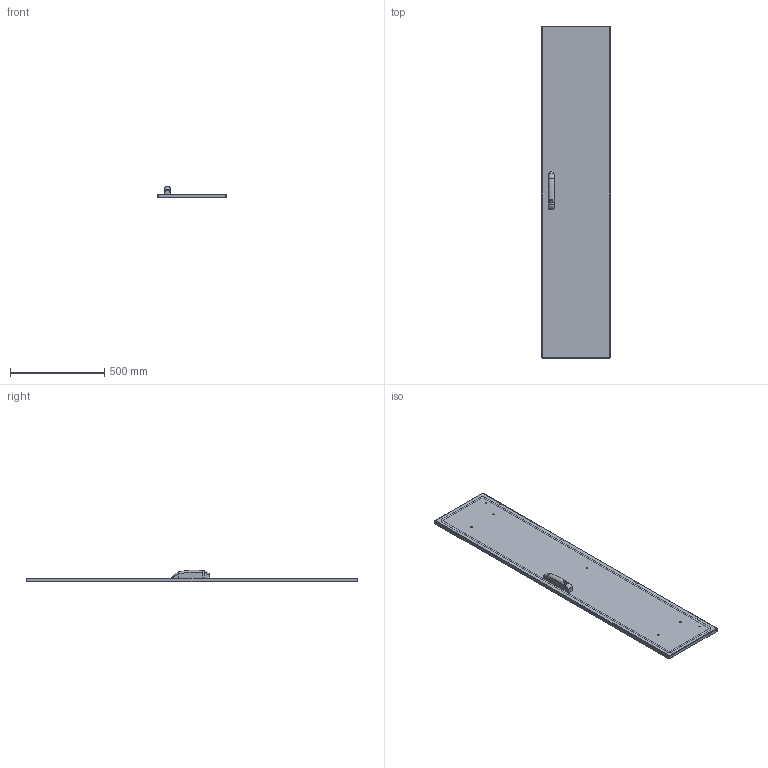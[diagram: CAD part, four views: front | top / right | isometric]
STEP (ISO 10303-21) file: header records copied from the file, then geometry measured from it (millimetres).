
FILE_DESCRIPTION (( 'STEP AP203' ), '1' );
FILE_NAME ('EUPF040180.STEP', '2021-03-15T10:35:44', ( '' ), ( '' ), 'SwSTEP 2.0', 'SolidWorks 2019', '' );
FILE_SCHEMA (( 'CONFIG_CONTROL_DESIGN' ));
Length unit declared in the file: millimetre
Products named in the file (3): EUPF040180; AR_ENUX_nuova_maniglia_mesan; AR_ENUX_Porta_laterale EUPF_2.0_0400x1800
Assembly tree (2 placements, depth 2):
  EUPF040180
    AR_ENUX_Porta_laterale EUPF_2.0_0400x1800
    AR_ENUX_nuova_maniglia_mesan
Bounding box: 362 x 1760 x 62 mm (x, y, z)
Volume: 1851012 mm3; surface area: 1475598.8 mm2
Topology: 6 solids, 6 shells, 180 faces, 398 edges, 238 vertices
Faces by surface type: cylinder 78, plane 47, bspline 25, cone 16, sphere 8, torus 6
Entity records: 8682 total; most frequent: CARTESIAN_POINT 4501, DIRECTION 831, ORIENTED_EDGE 772, EDGE_CURVE 386, AXIS2_PLACEMENT_3D 343, VERTEX_POINT 238, EDGE_LOOP 212, CIRCLE 183
